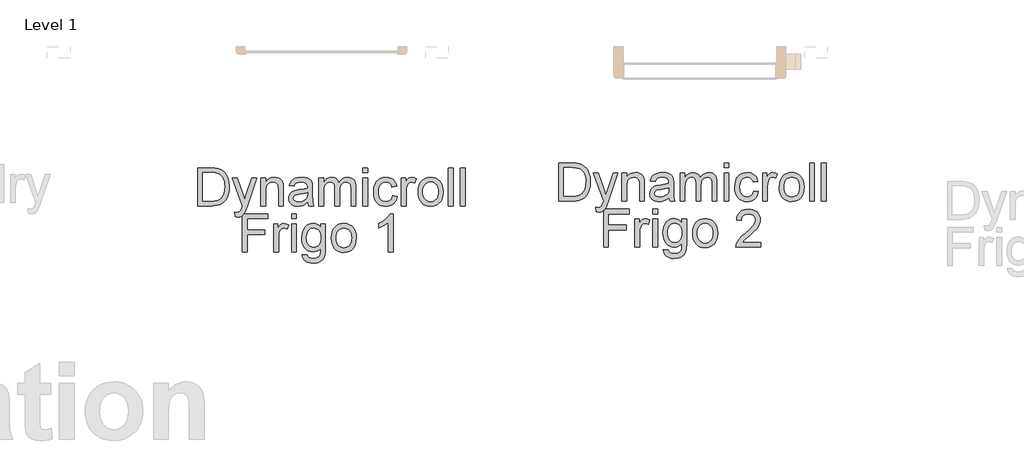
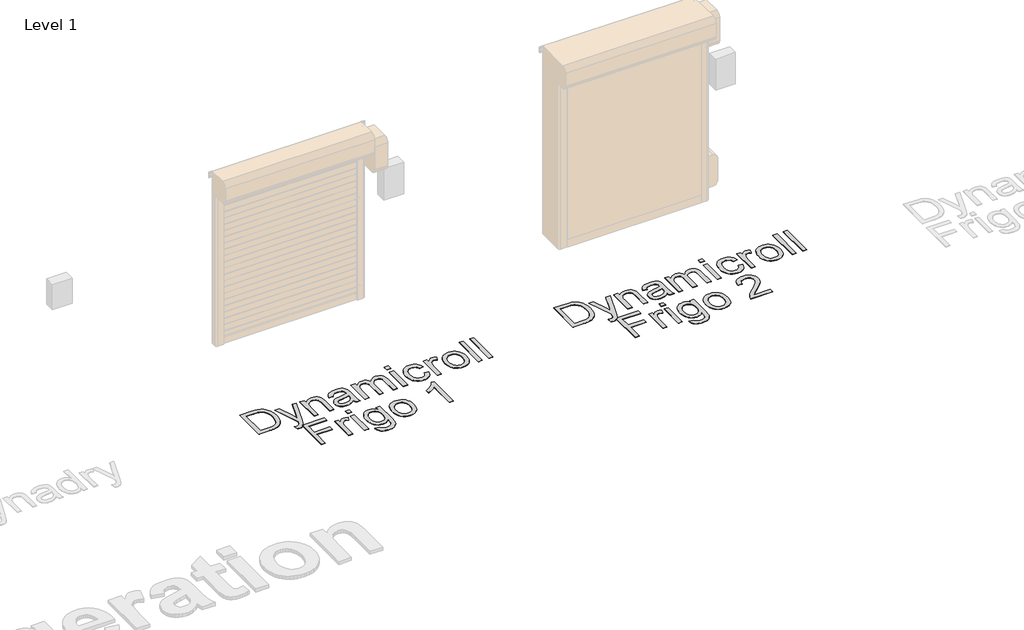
# One storey, part 4 of 18: 2 proxies.
"""IFC4 building model written with IfcOpenShell, lengths in millimetres."""

import ifcopenshell
import ifcopenshell.guid

model = None  # the IFC model being written
_history = None  # IfcOwnerHistory: only IFC2X3 demands one
_inside = {}  # id of a spatial element -> (the spatial element, [elements in it])
_under = {}  # id of a project, library or spatial element -> (it, [spatial elements below it])
_declared = {}  # id of a project -> (the project, [libraries it declares])
_typed = {}  # id of a type object -> (the type object, [elements of that type])
_made_of = {}  # id of a material, layer set ... -> (it, [elements and type objects made of it])


def new_model(schema):
    """Start an empty IFC model of exactly this schema.

    Asked for "IFC4X3", IfcOpenShell would pick the latest addendum, in which some entities
    have other attributes; the version numbers below select the first issue.
    IFC2X3 requires an IfcOwnerHistory on every rooted entity: one is made here for all.
    """
    global model, _history
    if schema == "IFC4X3":
        model = ifcopenshell.file(schema_version=(4, 3, 0, 0))
    else:
        model = ifcopenshell.file(schema=schema)
    _inside.clear()
    _under.clear()
    _declared.clear()
    _typed.clear()
    _made_of.clear()
    _history = None
    if model.schema == "IFC2X3":
        org = make("IfcOrganization", Name="unknown")
        user = make(
            "IfcPersonAndOrganization",
            ThePerson=make("IfcPerson", FamilyName="unknown"),
            TheOrganization=org,
        )
        app = make(
            "IfcApplication",
            ApplicationDeveloper=org,
            Version="unknown",
            ApplicationFullName="unknown",
            ApplicationIdentifier="unknown",
        )
        _history = make(
            "IfcOwnerHistory",
            OwningUser=user,
            OwningApplication=app,
            ChangeAction="ADDED",
            CreationDate=0,
        )
    return model


def make(cls, **values):
    """One entity of the class cls with the attributes given. An attribute that is None is left unset."""
    return model.create_entity(
        cls, **{name: value for name, value in values.items() if value is not None}
    )


def rooted(cls, **values):
    """An entity with a GlobalId (a new one), such as an element, a storey or a relation."""
    return make(cls, GlobalId=ifcopenshell.guid.new(), OwnerHistory=_history, **values)


def si_unit(unit_type, name, prefix=None):
    """IfcSIUnit, for example si_unit("LENGTHUNIT", "METRE", prefix="MILLI")."""
    return make("IfcSIUnit", UnitType=unit_type, Prefix=prefix, Name=name)


def assignment(units):
    """IfcUnitAssignment: the units of a project."""
    return None if units is None else make("IfcUnitAssignment", Units=units)


def point(xyz):
    """IfcCartesianPoint."""
    return None if xyz is None else make("IfcCartesianPoint", Coordinates=xyz)


def direction(xyz):
    """IfcDirection."""
    return None if xyz is None else make("IfcDirection", DirectionRatios=xyz)


def frame(location, z_axis=None, x_axis=None):
    """IfcAxis2Placement3D, a coordinate frame: its origin and axes. An axis left out is left unset."""
    return make(
        "IfcAxis2Placement3D",
        Location=point(location),
        Axis=direction(z_axis),
        RefDirection=direction(x_axis),
    )


def origin():
    """The frame at (0, 0, 0) with its axes left unset."""
    return frame((0.0, 0.0, 0.0))


def origin_with_axes():
    """The frame at (0, 0, 0) with the z axis (0, 0, 1) and the x axis (1, 0, 0) written out."""
    return frame((0.0, 0.0, 0.0), z_axis=(0.0, 0.0, 1.0), x_axis=(1.0, 0.0, 0.0))


def place(relative_to, where):
    """IfcLocalPlacement: puts the frame where relative to a parent placement (None: the world)."""
    return make(
        "IfcLocalPlacement", PlacementRelTo=relative_to, RelativePlacement=where
    )


def context(
    kind, dimensions, precision=None, world=None, true_north=None, identifier=None
):
    """IfcGeometricRepresentationContext, for example the 3D "Model" context."""
    return make(
        "IfcGeometricRepresentationContext",
        ContextIdentifier=identifier,
        ContextType=kind,
        CoordinateSpaceDimension=dimensions,
        Precision=precision,
        WorldCoordinateSystem=world,
        TrueNorth=true_north,
    )


def project(units=None, contexts=None):
    """IfcProject with its units and contexts."""
    return rooted(
        "IfcProject",
        Name="project",
        RepresentationContexts=contexts,
        UnitsInContext=assignment(units),
    )


def spatial(cls, under=None, at=None, **own):
    """A site, building, storey or space (cls), placed at a placement, below another one or the project."""
    s = rooted(cls, ObjectPlacement=at, **own)
    if under is not None:
        _under.setdefault(under.id(), (under, []))[1].append(s)
    return s


def polyline(points):
    """IfcPolyline through the points."""
    return make("IfcPolyline", Points=[point(p) for p in points])


def outline(outer, holes=None, kind="AREA"):
    """IfcArbitraryClosedProfileDef: a profile drawn as a closed curve; with holes, ...WithVoids."""
    if holes is None:
        return make("IfcArbitraryClosedProfileDef", ProfileType=kind, OuterCurve=outer)
    return make(
        "IfcArbitraryProfileDefWithVoids",
        ProfileType=kind,
        OuterCurve=outer,
        InnerCurves=holes,
    )


def extrude(swept, where, along, depth):
    """IfcExtrudedAreaSolid: the profile swept, set in the frame where, extruded along a direction by depth."""
    return make(
        "IfcExtrudedAreaSolid",
        SweptArea=swept,
        Position=where,
        ExtrudedDirection=direction(along),
        Depth=depth,
    )


def shape(context_of_items, identifier, shape_type, items):
    """IfcShapeRepresentation: the items that make up one representation, for example the "Body"."""
    return make(
        "IfcShapeRepresentation",
        ContextOfItems=context_of_items,
        RepresentationIdentifier=identifier,
        RepresentationType=shape_type,
        Items=items,
    )


def made_of(thing, what):
    """Note that an element or type object is made of a material, layer set ...; save() writes the relation."""
    if what is not None:
        _made_of.setdefault(what.id(), (what, []))[1].append(thing)
    return thing


def element(
    cls,
    number,
    at=None,
    inside=None,
    cuts=None,
    type_object=None,
    material=None,
    context=None,
    identifier="Body",
    shape_type=None,
    held_by="IfcProductDefinitionShape",
    body=None,
    shapes=None,
    **own,
):
    """One element of the class cls, such as IfcWall. Its Tag is "e" and its number.

    at: its placement. inside: the storey or other place that contains it. cuts: it is an
    opening in that element (IfcRelVoidsElement). A single representation is given by context,
    identifier, shape_type and body (its items); several are given by shapes. held_by: the class
    of the entity that holds the representations. save() writes the other relations.
    """
    e = rooted(cls, Tag="e%d" % number, ObjectPlacement=at, **own)
    if body is not None:
        shapes = [shape(context, identifier, shape_type, body)]
    if shapes is not None:
        e.Representation = make(held_by, Representations=shapes)
    if inside is not None:
        _inside.setdefault(inside.id(), (inside, []))[1].append(e)
    if cuts is not None:
        rooted(
            "IfcRelVoidsElement", RelatingBuildingElement=cuts, RelatedOpeningElement=e
        )
    if type_object is not None:
        _typed.setdefault(type_object.id(), (type_object, []))[1].append(e)
    return made_of(e, material)


def aggregate(whole, parts):
    """IfcRelAggregates: a whole, such as a stair, and the parts it consists of."""
    return rooted("IfcRelAggregates", RelatingObject=whole, RelatedObjects=parts)


def save(model, path):
    """Write the relations noted so far, then the file.

    IfcRelAggregates (storeys below a building ...), IfcRelContainedInSpatialStructure (elements
    in a storey), IfcRelDefinesByType, IfcRelAssociatesMaterial and IfcRelDeclares: one each for
    every whole, place, type object, material and project.
    """
    for whole, parts in _under.values():
        aggregate(whole, parts)
    for where, things in _inside.values():
        rooted(
            "IfcRelContainedInSpatialStructure",
            RelatedElements=things,
            RelatingStructure=where,
        )
    for kind, things in _typed.values():
        rooted("IfcRelDefinesByType", RelatedObjects=things, RelatingType=kind)
    for what, things in _made_of.values():
        rooted("IfcRelAssociatesMaterial", RelatedObjects=things, RelatingMaterial=what)
    for by, libraries in _declared.values():
        rooted("IfcRelDeclares", RelatingContext=by, RelatedDefinitions=libraries)
    model.write(path)


model = new_model("IFC4")

# Units and contexts
model_context = context("Model", 3, world=origin())
ifc_project = project(units=[si_unit("LENGTHUNIT", "METRE", prefix="MILLI")], contexts=[model_context])

# Site, building, storey
site = spatial("IfcSite", under=ifc_project)
building = spatial("IfcBuilding", under=site)
storey = spatial("IfcBuildingStorey", under=building, Name="Level 1", Elevation=0.0)

# Proxies
placement = place(None, origin())
element("IfcBuildingElementProxy", 1, Name="500mm", ObjectType="500mm", at=placement, inside=storey, context=model_context, shape_type="SweptSolid", body=[
    extrude(outline(polyline([(14861.4528433, 7547.2366873), (14861.4528433, 8049.5182381), (15034.725263, 8049.5182381), (15086.5046538, 8047.7094849), (15124.3658425, 8042.2832255), (15164.4036663, 8028.3343665), (15198.1874962, 8006.3534173), (15216.803858, 7988.3885132), (15232.9216879, 7968.0936898), (15246.5409859, 7945.4689471), (15257.6617521, 7920.5142851), (15272.4690024, 7864.5349081), (15277.4047525, 7801.075264), (15274.0631577, 7747.1652233), (15264.0383733, 7699.7237743), (15248.7712705, 7659.3333969), (15229.7027204, 7626.5765709), (15207.752428, 7600.7175324), (15183.8400984, 7581.0205172), (15156.3869045, 7566.4125363), (15123.8140195, 7555.8206005), (15086.0601297, 7549.3826656), (15043.0639215, 7547.2366873), (14861.4528433, 7547.2366873)]), holes=[polyline([(14924.2380371, 7610.0218811), (15035.3383996, 7610.0218811), (15081.2929922, 7612.2904868), (15116.1498112, 7619.0963037), (15142.4533739, 7630.0407931), (15162.7481973, 7644.725416), (15184.5605339, 7671.9026984), (15200.9466111, 7707.0814142), (15211.2013218, 7750.4148476), (15214.6195586, 7802.0562826), (15212.9449291, 7838.507257), (15207.9210406, 7870.4823337), (15199.5478931, 7897.9815129), (15187.8254866, 7921.0047944), (15173.704183, 7940.0733445), (15158.1343439, 7955.7083293), (15141.1159696, 7967.9097488), (15122.6490598, 7976.677603), (15086.5353106, 7984.2191839), (15033.621617, 7986.7330442), (14924.2380371, 7986.7330442), (14924.2380371, 7610.0218811)])]), origin_with_axes(), (0.0, 0.0, 1.0), 5.0),
    extrude(outline(polyline([(15355.8862448, 7405.9700012), (15348.0380955, 7466.4252757), (15379.9212018, 7460.9070458), (15396.6904894, 7462.6391568), (15409.7196434, 7467.83549), (15419.8670551, 7476.1281633), (15427.9911158, 7487.1492948), (15445.1589423, 7533.3797988), (15450.0640355, 7548.585588), (15316.6454986, 7916.0997011), (15382.8642578, 7916.0997011), (15453.6202282, 7711.3120572), (15478.2683218, 7629.3969996), (15502.9164155, 7701.7471253), (15575.6344232, 7916.0997011), (15641.362673, 7916.0997011), (15512.9718567, 7538.4075194), (15479.6172225, 7456.4924618), (15462.5413665, 7430.3421833), (15443.196905, 7412.2239951), (15420.7254464, 7401.6473877), (15394.2685996, 7398.1218519), (15376.0890977, 7400.0838892), (15355.8862448, 7405.9700012)])), origin_with_axes(), (0.0, 0.0, 1.0), 5.0),
    extrude(outline(polyline([(15693.3566617, 7547.2366873), (15693.3566617, 7916.0997011), (15756.1418555, 7916.0997011), (15756.1418555, 7864.5962218), (15777.9541922, 7890.5625593), (15804.1504559, 7909.1099432), (15834.7306467, 7920.2383736), (15869.6947647, 7923.9478504), (15900.6428375, 7920.9588092), (15928.9850796, 7911.9916855), (15952.6214978, 7898.1654539), (15969.4520991, 7880.5990886), (15980.8717693, 7859.338575), (15988.2753945, 7834.4298982), (15991.5863324, 7773.729369), (15991.5863324, 7547.2366873), (15928.8011386, 7547.2366873), (15928.8011386, 7765.2680831), (15926.9923855, 7797.7336692), (15921.566126, 7820.8182644), (15911.5566701, 7837.3576258), (15895.9983274, 7850.1875103), (15876.0560575, 7858.41887), (15852.8948203, 7861.1626565), (15833.8301023, 7859.6221507), (15816.1219492, 7855.0006331), (15799.7703609, 7847.2981038), (15784.7753375, 7836.5145628), (15772.2481891, 7821.4237368), (15763.300226, 7800.7993525), (15757.9314481, 7774.6414098), (15756.1418555, 7742.9499087), (15756.1418555, 7547.2366873), (15693.3566617, 7547.2366873)])), origin_with_axes(), (0.0, 0.0, 1.0), 5.0),
    extrude(outline(polyline([(16313.3604509, 7594.3255827), (16283.3627399, 7568.6044999), (16252.4759807, 7551.7738986), (16219.9950662, 7542.4848782), (16185.2148892, 7539.3885381), (16157.2596897, 7541.2509407), (16132.7457197, 7546.8381485), (16111.6729791, 7556.1501615), (16094.0414681, 7569.1869797), (16080.1194338, 7585.1208686), (16070.1751237, 7603.1240937), (16064.2085375, 7623.1966551), (16062.2196755, 7645.3385527), (16065.2240451, 7671.3662038), (16074.237154, 7695.002622), (16088.1400278, 7715.2361318), (16105.8136919, 7731.0550576), (16126.5836963, 7743.0112224), (16149.7755904, 7751.6564493), (16204.0994983, 7761.0987538), (16268.2949065, 7771.0315677), (16312.9925689, 7782.6811642), (16313.3604509, 7796.66068), (16309.0378374, 7824.6810253), (16296.0699971, 7843.0138114), (16282.9948579, 7850.9539312), (16267.0686332, 7856.6254452), (16226.6629274, 7861.1626565), (16189.2615912, 7858.1429585), (16163.1419695, 7849.0838643), (16145.3303496, 7832.3299052), (16132.8530186, 7806.2256119), (16070.0678247, 7814.0737611), (16080.9663289, 7848.409414), (16097.2297787, 7875.387427), (16120.3756876, 7896.0194756), (16151.9215687, 7911.3172352), (16190.5031929, 7920.7901966), (16234.7563313, 7923.9478504), (16277.2007164, 7921.1580786), (16310.8465906, 7912.7887632), (16336.2151198, 7900.2041333), (16353.8274704, 7884.7684179), (16365.5077237, 7865.6845394), (16373.0799614, 7842.1554201), (16376.1456447, 7787.2183755), (16376.1456447, 7709.1047652), (16379.3339554, 7600.0277536), (16384.0551076, 7573.065069), (16391.8419432, 7547.2366873), (16329.0567493, 7547.2366873), (16319.0013081, 7569.0643524), (16313.3604509, 7594.3255827)]), holes=[polyline([(16313.3604509, 7719.8959704), (16271.1766488, 7709.4419903), (16212.0702749, 7700.6434793), (16158.0529353, 7690.4654108), (16143.9967774, 7683.5063097), (16133.5887826, 7673.910721), (16127.1508477, 7662.4144086), (16125.0048694, 7649.7531366), (16129.6800364, 7631.0831254), (16143.7055374, 7615.7853657), (16166.7748042, 7605.5766404), (16198.5812684, 7602.1737319), (16232.3037846, 7605.929194), (16262.1022262, 7617.1955801), (16286.2598106, 7633.7962551), (16303.059755, 7653.5545839), (16310.5093654, 7673.910721), (16312.9925689, 7702.1150073), (16313.3604509, 7719.8959704)])]), origin_with_axes(), (0.0, 0.0, 1.0), 5.0),
    extrude(outline(polyline([(16462.4752863, 7547.2366873), (16462.4752863, 7916.0997011), (16525.2604801, 7916.0997011), (16525.2604801, 7855.3991719), (16544.1450892, 7883.2815615), (16568.4253009, 7905.1245549), (16597.2733807, 7919.2420265), (16629.8615941, 7923.9478504), (16664.7797268, 7919.150056), (16692.7694152, 7904.756673), (16713.6773753, 7881.718063), (16727.3503228, 7850.984588), (16750.2356486, 7882.9060153), (16776.3399418, 7905.7070348), (16805.6632025, 7919.3876465), (16838.2054307, 7923.9478504), (16863.3402016, 7922.0509588), (16885.401625, 7916.3602842), (16904.3897009, 7906.8758265), (16920.3044293, 7893.5975858), (16932.8852271, 7876.3722778), (16941.8715112, 7855.0466184), (16947.2632817, 7829.6206075), (16949.0605386, 7800.0942453), (16949.0605386, 7547.2366873), (16886.2753447, 7547.2366873), (16886.2753447, 7773.1162323), (16884.8191451, 7804.4321872), (16880.4505465, 7825.5394167), (16872.2651721, 7839.9941134), (16859.3586454, 7851.35247), (16842.7579704, 7858.7101099), (16823.4901509, 7861.1626565), (16805.6976915, 7859.5914938), (16789.4763947, 7854.8780058), (16774.8262607, 7847.0221923), (16761.7472893, 7836.0240535), (16750.9905731, 7821.5616926), (16743.3072043, 7803.3132128), (16738.6971831, 7781.2786141), (16737.1605093, 7755.4578966), (16737.1605093, 7547.2366873), (16674.3753155, 7547.2366873), (16674.3753155, 7780.1059903), (16670.7424808, 7815.6066028), (16659.8439767, 7840.9291468), (16651.4171797, 7849.7813073), (16640.6681277, 7856.1042791), (16612.2032583, 7861.1626565), (16588.0150171, 7857.7904049), (16565.7274996, 7847.67365), (16547.3333998, 7831.0576466), (16534.825412, 7808.1876492), (16527.6517131, 7776.4578271), (16525.2604801, 7733.2623495), (16525.2604801, 7547.2366873), (16462.4752863, 7547.2366873)])), origin_with_axes(), (0.0, 0.0, 1.0), 5.0),
    extrude(outline(polyline([(17043.2383293, 7986.7330442), (17043.2383293, 8049.5182381), (17106.0235232, 8049.5182381), (17106.0235232, 7986.7330442), (17043.2383293, 7986.7330442)])), origin_with_axes(), (0.0, 0.0, 1.0), 5.0),
    extrude(outline(polyline([(17043.2383293, 7547.2366873), (17043.2383293, 7916.0997011), (17106.0235232, 7916.0997011), (17106.0235232, 7547.2366873), (17043.2383293, 7547.2366873)])), origin_with_axes(), (0.0, 0.0, 1.0), 5.0),
    extrude(outline(polyline([(17435.6457908, 7680.6552242), (17498.4309847, 7672.807075), (17491.6021751, 7643.1810781), (17480.9259331, 7616.9656538), (17466.4022585, 7594.1608022), (17448.0311513, 7574.7665233), (17426.5866967, 7559.2886548), (17402.8429796, 7548.2330344), (17376.8, 7541.5996621), (17348.457758, 7539.3885381), (17313.2445533, 7542.4733819), (17281.6718474, 7551.7279133), (17253.7396405, 7567.1521324), (17229.4479325, 7588.7460391), (17209.7854063, 7616.1034304), (17195.7407447, 7648.8181032), (17187.3139478, 7686.8900576), (17184.5050155, 7730.3192936), (17189.3028098, 7786.1913716), (17203.6961929, 7834.6138392), (17214.5487117, 7855.5639524), (17227.9150909, 7873.7166296), (17243.7953304, 7889.0718708), (17262.1894301, 7901.629676), (17303.1929442, 7918.3683068), (17347.5993667, 7923.9478504), (17375.4549315, 7922.0317983), (17400.651016, 7916.2836421), (17423.1876204, 7906.7033818), (17443.0647444, 7893.2910174), (17459.945163, 7876.3531172), (17473.4916511, 7856.1962496), (17483.7042086, 7832.8204145), (17490.5828355, 7806.2256119), (17427.7976416, 7798.3774627), (17416.4086282, 7825.7693429), (17398.6736503, 7845.4050444), (17375.5737267, 7857.2232535), (17348.089876, 7861.1626565), (17326.7565524, 7859.2236118), (17307.5155576, 7853.4064778), (17290.3668917, 7843.7112544), (17275.3105546, 7830.1379416), (17263.0516535, 7812.3723069), (17254.2952956, 7790.1001178), (17249.0414809, 7763.3213742), (17247.2902093, 7732.0360762), (17249.0031598, 7700.2794294), (17254.1420115, 7673.1902854), (17262.7067642, 7650.7686442), (17274.6974179, 7633.0145058), (17289.4548509, 7619.5216673), (17306.3199411, 7609.8839254), (17325.2926886, 7604.1012803), (17346.3730933, 7602.1737319), (17378.8846647, 7606.9868547), (17405.5407809, 7621.426223), (17416.3204898, 7632.3477197), (17424.9312277, 7645.8597188), (17435.6457908, 7680.6552242)])), origin_with_axes(), (0.0, 0.0, 1.0), 5.0),
    extrude(outline(polyline([(17553.3680293, 7547.2366873), (17553.3680293, 7916.0997011), (17608.3050739, 7916.0997011), (17608.3050739, 7861.5305385), (17628.5998973, 7893.1683901), (17647.3005654, 7911.8077445), (17666.0625472, 7920.9128239), (17686.5413115, 7923.9478504), (17717.8112811, 7919.1040708), (17749.5717601, 7904.572732), (17728.6024863, 7848.2867867), (17706.5295666, 7857.9436891), (17684.4566469, 7861.1626565), (17665.7099936, 7858.0663164), (17648.9560344, 7848.777296), (17635.4210426, 7834.0007025), (17626.3312917, 7814.4416431), (17618.6977403, 7779.3702263), (17616.1532231, 7741.1104988), (17616.1532231, 7547.2366873), (17553.3680293, 7547.2366873)])), origin_with_axes(), (0.0, 0.0, 1.0), 5.0),
    extrude(outline(polyline([(17773.1162077, 7731.6681942), (17776.511452, 7779.4392041), (17786.6971847, 7820.6036666), (17803.673406, 7855.1615815), (17827.4401157, 7883.1129489), (17851.3677738, 7900.9782183), (17877.7786354, 7913.739125), (17906.6727004, 7921.395669), (17938.0499689, 7923.9478504), (17972.688358, 7920.8400139), (18004.008145, 7911.5165046), (18032.0093297, 7895.9773224), (18056.6919124, 7874.2224674), (18076.8372837, 7846.9877034), (18091.2268347, 7815.0087945), (18099.8605652, 7778.2857408), (18102.7384754, 7736.8185422), (18097.6494412, 7673.3895548), (18091.2881483, 7647.3542395), (18082.3823384, 7625.105043), (18071.0431423, 7605.8870408), (18057.3816911, 7588.9453085), (18041.3979848, 7574.2798461), (18023.0920235, 7561.8906534), (17982.3644209, 7545.0140669), (17938.0499689, 7539.3885381), (17902.9057421, 7542.4848782), (17871.2947152, 7551.7738986), (17843.2168883, 7567.2555992), (17818.6722615, 7588.9299801), (17798.741488, 7616.4291592), (17784.5052212, 7649.3852546), (17775.9634611, 7687.7982663), (17773.1162077, 7731.6681942)]), holes=[polyline([(17835.9014016, 7731.7908216), (17837.7178189, 7701.3370901), (17843.167071, 7674.9683817), (17852.2491578, 7652.6846963), (17864.9640792, 7634.4860338), (17880.4304514, 7620.3494017), (17897.7668904, 7610.2518074), (17916.9733963, 7604.1932508), (17938.0499689, 7602.1737319), (17959.0192426, 7604.2047471), (17978.1491064, 7610.2977926), (17995.4395602, 7620.4528686), (18010.890604, 7634.6699748), (18023.6055254, 7653.0487462), (18032.6876122, 7675.6888173), (18038.1368642, 7702.5901882), (18039.9532816, 7733.7528589), (18038.1253679, 7763.2409), (18032.6416269, 7788.9198297), (18023.5020586, 7810.7896479), (18010.706663, 7828.8503546), (17995.1981376, 7842.9869867), (17977.9191801, 7853.084581), (17958.8697906, 7859.1431377), (17938.0499689, 7861.1626565), (17916.9733963, 7859.1508019), (17897.7668904, 7853.1152379), (17880.4304514, 7843.0559646), (17864.9640792, 7828.9729819), (17852.2491578, 7810.827969), (17843.167071, 7788.5826046), (17837.7178189, 7762.2368888), (17835.9014016, 7731.7908216)])]), origin_with_axes(), (0.0, 0.0, 1.0), 5.0),
    extrude(outline(polyline([(18173.3718185, 7547.2366873), (18173.3718185, 8049.5182381), (18236.1570123, 8049.5182381), (18236.1570123, 7547.2366873), (18173.3718185, 7547.2366873)])), origin_with_axes(), (0.0, 0.0, 1.0), 5.0),
    extrude(outline(polyline([(18330.3348031, 7547.2366873), (18330.3348031, 8049.5182381), (18393.119997, 8049.5182381), (18393.119997, 7547.2366873), (18330.3348031, 7547.2366873)])), origin_with_axes(), (0.0, 0.0, 1.0), 5.0),
    extrude(outline(polyline([(15450.0640355, 6937.3625981), (15450.0640355, 7439.6441488), (15787.5344524, 7439.6441488), (15787.5344524, 7376.858955), (15512.8492294, 7376.858955), (15512.8492294, 7227.7441196), (15748.2937063, 7227.7441196), (15748.2937063, 7164.9589258), (15512.8492294, 7164.9589258), (15512.8492294, 6937.3625981), (15450.0640355, 6937.3625981)])), origin_with_axes(), (0.0, 0.0, 1.0), 5.0),
    extrude(outline(polyline([(15866.0159448, 6937.3625981), (15866.0159448, 7306.2256119), (15920.9529894, 7306.2256119), (15920.9529894, 7251.6564493), (15941.2478128, 7283.2943009), (15959.9484809, 7301.9336553), (15978.7104626, 7311.0387347), (15999.189227, 7314.0737611), (16030.4591966, 7309.2299815), (16062.2196755, 7294.6986427), (16041.2504018, 7238.4126975), (16019.1774821, 7248.0695998), (15997.1045624, 7251.2885673), (15978.357909, 7248.1922272), (15961.6039498, 7238.9032068), (15948.0689581, 7224.1266133), (15938.9792071, 7204.5675539), (15931.3456557, 7169.496137), (15928.8011386, 7131.2364095), (15928.8011386, 6937.3625981), (15866.0159448, 6937.3625981)])), origin_with_axes(), (0.0, 0.0, 1.0), 5.0),
    extrude(outline(polyline([(16101.4604217, 7376.858955), (16101.4604217, 7439.6441488), (16164.2456155, 7439.6441488), (16164.2456155, 7376.858955), (16101.4604217, 7376.858955)])), origin_with_axes(), (0.0, 0.0, 1.0), 5.0),
    extrude(outline(polyline([(16101.4604217, 6937.3625981), (16101.4604217, 7306.2256119), (16164.2456155, 7306.2256119), (16164.2456155, 6937.3625981), (16101.4604217, 6937.3625981)])), origin_with_axes(), (0.0, 0.0, 1.0), 5.0),
    extrude(outline(polyline([(16242.7271078, 6905.9700012), (16305.5123017, 6898.1218519), (16312.4407459, 6878.5014789), (16325.8684387, 6865.0124724), (16352.2639719, 6854.5278355), (16386.8142226, 6851.0329565), (16423.6637358, 6854.987688), (16451.0709444, 6866.8518823), (16470.0781808, 6885.8591188), (16481.7277773, 6911.2429764), (16485.1306858, 6938.2516462), (16486.019734, 6984.4514935), (16465.1271023, 6963.8501017), (16441.8125809, 6949.1348219), (16416.0761696, 6940.305654), (16387.9178686, 6937.3625981), (16353.4940773, 6940.7884992), (16323.1859658, 6951.0662024), (16296.9935342, 6968.1957078), (16274.9167824, 6992.1770154), (16257.4002345, 7020.9484531), (16244.8884145, 7052.4483489), (16237.3813226, 7086.6767029), (16234.8789586, 7123.633515), (16239.3701846, 7174.3245882), (16252.8438627, 7220.9383027), (16274.8248119, 7260.4396319), (16288.8273203, 7276.3850172), (16304.8378513, 7289.7935495), (16322.5996539, 7300.4161421), (16341.8559771, 7308.0037082), (16362.6068209, 7312.5562479), (16384.8521853, 7314.0737611), (16414.213767, 7310.6401959), (16440.862219, 7300.3395), (16464.7975414, 7283.1716735), (16486.019734, 7259.1367165), (16486.019734, 7306.2256119), (16548.8049278, 7306.2256119), (16548.8049278, 6987.7624314), (16544.5129712, 6914.2320176), (16539.1480254, 6886.8822906), (16531.6371014, 6865.80955), (16509.4568827, 6833.6965175), (16477.2518797, 6809.0944091), (16457.5663609, 6799.9740013), (16435.7271995, 6793.4594243), (16385.5879493, 6788.2477627), (16354.8276495, 6790.0833406), (16327.1713541, 6795.5900742), (16302.619063, 6804.7679635), (16281.1707763, 6817.6170086), (16263.8458336, 6834.1525379), (16251.6635746, 6854.3898798), (16244.6239994, 6878.3290342), (16242.7271078, 6905.9700012)]), holes=[polyline([(16297.6641524, 7127.9254716), (16299.3387819, 7096.8815961), (16304.3626704, 7070.3366109), (16312.7358179, 7048.2905159), (16324.4582244, 7030.7433112), (16338.7098196, 7017.3577715), (16354.6705333, 7007.7966717), (16372.3403653, 7002.0600119), (16391.7193159, 7000.1477919), (16410.9066612, 7002.0485156), (16428.492187, 7007.7506865), (16444.4758932, 7017.2543047), (16458.85778, 7030.5593702), (16470.7411348, 7047.9341303), (16479.2292455, 7069.6468322), (16484.3221118, 7095.697476), (16486.019734, 7126.0860616), (16484.2722945, 7155.2062208), (16479.029976, 7180.5172685), (16470.2927787, 7202.0192047), (16458.0607023, 7219.7120294), (16443.3684151, 7233.5267647), (16427.2505852, 7243.3944328), (16409.7072126, 7249.3150337), (16390.7382972, 7251.2885673), (16372.0874465, 7249.3456905), (16354.8851311, 7243.5170601), (16339.1313511, 7233.8026762), (16324.8261064, 7220.2025387), (16312.9427515, 7202.7779613), (16304.4546409, 7181.5902576), (16299.3617745, 7156.6394277), (16297.6641524, 7127.9254716)])]), origin_with_axes(), (0.0, 0.0, 1.0), 5.0),
    extrude(outline(polyline([(16627.2864201, 7121.794105), (16630.6816644, 7169.5651149), (16640.8673971, 7210.7295773), (16657.8436183, 7245.2874923), (16681.6103281, 7273.2388597), (16705.5379862, 7291.1041291), (16731.9488477, 7303.8650358), (16760.8429128, 7311.5215798), (16792.2201813, 7314.0737611), (16826.8585704, 7310.9659247), (16858.1783573, 7301.6424154), (16886.1795421, 7286.1032332), (16910.8621247, 7264.3483781), (16931.0074961, 7237.1136142), (16945.397047, 7205.1347053), (16954.0307776, 7168.4116516), (16956.9086878, 7126.9444529), (16951.8196535, 7063.5154656), (16945.4583607, 7037.4801502), (16936.5525507, 7015.2309537), (16925.2133546, 6996.0129516), (16911.5519035, 6979.0712193), (16895.5681972, 6964.4057568), (16877.2622358, 6952.0165642), (16836.5346333, 6935.1399777), (16792.2201813, 6929.5144488), (16757.0759544, 6932.610789), (16725.4649276, 6941.8998094), (16697.3871007, 6957.38151), (16672.8424738, 6979.0558909), (16652.9117003, 7006.55507), (16638.6754335, 7039.5111654), (16630.1336735, 7077.9241771), (16627.2864201, 7121.794105)]), holes=[polyline([(16690.0716139, 7121.9167323), (16691.8880313, 7091.4630009), (16697.3372834, 7065.0942925), (16706.4193701, 7042.8106071), (16719.1342916, 7024.6119446), (16734.6006638, 7010.4753125), (16751.9371028, 7000.3777182), (16771.1436086, 6994.3191616), (16792.2201813, 6992.2996427), (16813.189455, 6994.3306579), (16832.3193187, 7000.4237034), (16849.6097725, 7010.5787793), (16865.0608163, 7024.7958856), (16877.7757378, 7043.1746569), (16886.8578245, 7065.8147281), (16892.3070766, 7092.716099), (16894.1234939, 7123.8787696), (16892.2955803, 7153.3668108), (16886.8118393, 7179.0457405), (16877.672271, 7200.9155587), (16864.8768753, 7218.9762654), (16849.36835, 7233.1128975), (16832.0893925, 7243.2104918), (16813.0400029, 7249.2690484), (16792.2201813, 7251.2885673), (16771.1436086, 7249.2767126), (16751.9371028, 7243.2411487), (16734.6006638, 7233.1818753), (16719.1342916, 7219.0988927), (16706.4193701, 7200.9538797), (16697.3372834, 7178.7085153), (16691.8880313, 7152.3627995), (16690.0716139, 7121.9167323)])]), origin_with_axes(), (0.0, 0.0, 1.0), 5.0),
    extrude(outline(polyline([(17443.4939401, 6937.3625981), (17380.7087462, 6937.3625981), (17380.7087462, 7328.7890409), (17354.4971541, 7307.589841), (17321.2344903, 7286.4212978), (17255.1383585, 7254.7221326), (17255.1383585, 7314.0737611), (17304.4498743, 7340.89849), (17347.170171, 7372.812253), (17380.846702, 7406.7493671), (17403.0269206, 7439.6441488), (17443.4939401, 7439.6441488), (17443.4939401, 6937.3625981)])), origin_with_axes(), (0.0, 0.0, 1.0), 5.0),
])
element("IfcBuildingElementProxy", 2, Name="500mm", ObjectType="500mm", at=placement, inside=storey, context=model_context, shape_type="SweptSolid", body=[
    extrude(outline(polyline([(19635.3862268, 7610.4555859), (19635.3862268, 8112.7371367), (19808.6586466, 8112.7371367), (19860.4380374, 8110.9283835), (19898.299226, 8105.5021241), (19938.3370499, 8091.5532651), (19972.1208797, 8069.5723159), (19990.7372415, 8051.6074118), (20006.8550715, 8031.3125884), (20020.4743695, 8008.6878457), (20031.5951356, 7983.7331837), (20046.4023859, 7927.7538068), (20051.338136, 7864.2941626), (20047.9965413, 7810.3841219), (20037.9717569, 7762.9426729), (20022.7046541, 7722.5522955), (20003.636104, 7689.7954695), (19981.6858116, 7663.936431), (19957.7734819, 7644.2394158), (19930.320288, 7629.6314349), (19897.7474031, 7619.0394991), (19859.9935133, 7612.6015642), (19816.9973051, 7610.4555859), (19635.3862268, 7610.4555859)]), holes=[polyline([(19698.1714207, 7673.2407798), (19809.2717832, 7673.2407798), (19855.2263758, 7675.5093854), (19890.0831948, 7682.3152023), (19916.3867575, 7693.2596917), (19936.6815809, 7707.9443146), (19958.4939175, 7735.121597), (19974.8799947, 7770.3003128), (19985.1347053, 7813.6337462), (19988.5529422, 7865.2751812), (19986.8783127, 7901.7261556), (19981.8544242, 7933.7012323), (19973.4812767, 7961.2004115), (19961.7588702, 7984.223693), (19947.6375665, 8003.2922431), (19932.0677275, 8018.9272279), (19915.0493531, 8031.1286474), (19896.5824434, 8039.8965016), (19860.4686942, 8047.4380825), (19807.5550006, 8049.9519428), (19698.1714207, 8049.9519428), (19698.1714207, 7673.2407798)])]), origin_with_axes(), (0.0, 0.0, 1.0), 5.0),
    extrude(outline(polyline([(20129.8196283, 7469.1888998), (20121.9714791, 7529.6441743), (20153.8545854, 7524.1259444), (20170.623873, 7525.8580554), (20183.653027, 7531.0543886), (20193.8004387, 7539.3470619), (20201.9244994, 7550.3681934), (20219.0923258, 7596.5986974), (20223.9974191, 7611.8044866), (20090.5788822, 7979.3185997), (20156.7976413, 7979.3185997), (20227.5536117, 7774.5309558), (20252.2017054, 7692.6158982), (20276.8497991, 7764.9660239), (20349.5678068, 7979.3185997), (20415.2960566, 7979.3185997), (20286.9052403, 7601.626418), (20253.5506061, 7519.7113604), (20236.4747501, 7493.5610819), (20217.1302885, 7475.4428937), (20194.65883, 7464.8662863), (20168.2019832, 7461.3407505), (20150.0224812, 7463.3027878), (20129.8196283, 7469.1888998)])), origin_with_axes(), (0.0, 0.0, 1.0), 5.0),
    extrude(outline(polyline([(20467.2900453, 7610.4555859), (20467.2900453, 7979.3185997), (20530.0752391, 7979.3185997), (20530.0752391, 7927.8151204), (20551.8875757, 7953.7814579), (20578.0838395, 7972.3288418), (20608.6640303, 7983.4572722), (20643.6281483, 7987.166749), (20674.5762211, 7984.1777078), (20702.9184632, 7975.2105841), (20726.5548814, 7961.3843525), (20743.3854826, 7943.8179872), (20754.8051529, 7922.5574736), (20762.2087781, 7897.6487968), (20765.519716, 7836.9482676), (20765.519716, 7610.4555859), (20702.7345222, 7610.4555859), (20702.7345222, 7828.4869817), (20700.925769, 7860.9525678), (20695.4995096, 7884.037163), (20685.4900536, 7900.5765244), (20669.9317109, 7913.4064089), (20649.9894411, 7921.6377686), (20626.8282038, 7924.3815551), (20607.7634859, 7922.8410493), (20590.0553327, 7918.2195317), (20573.7037445, 7910.5170024), (20558.7087211, 7899.7334615), (20546.1815727, 7884.6426354), (20537.2336096, 7864.0182511), (20531.8648317, 7837.8603084), (20530.0752391, 7806.1688073), (20530.0752391, 7610.4555859), (20467.2900453, 7610.4555859)])), origin_with_axes(), (0.0, 0.0, 1.0), 5.0),
    extrude(outline(polyline([(21087.2938345, 7657.5444813), (21057.2961234, 7631.8233985), (21026.4093643, 7614.9927972), (20993.9284498, 7605.7037768), (20959.1482728, 7602.6074367), (20931.1930733, 7604.4698393), (20906.6791032, 7610.0570471), (20885.6063627, 7619.3690601), (20867.9748517, 7632.4058783), (20854.0528174, 7648.3397672), (20844.1085072, 7666.3429923), (20838.1419211, 7686.4155537), (20836.1530591, 7708.5574513), (20839.1574287, 7734.5851025), (20848.1705376, 7758.2215206), (20862.0734113, 7778.4550304), (20879.7470755, 7794.2739562), (20900.5170798, 7806.230121), (20923.7089739, 7814.8753479), (20978.0328819, 7824.3176524), (21042.2282901, 7834.2504663), (21086.9259525, 7845.9000628), (21087.2938345, 7859.8795786), (21082.971221, 7887.8999239), (21070.0033807, 7906.23271), (21056.9282414, 7914.1728298), (21041.0020167, 7919.8443439), (21000.5963109, 7924.3815551), (20963.1949748, 7921.3618571), (20937.0753531, 7912.302763), (20919.2637332, 7895.5488038), (20906.7864022, 7869.4445105), (20844.0012083, 7877.2926597), (20854.8997124, 7911.6283126), (20871.1631623, 7938.6063256), (20894.3090712, 7959.2383742), (20925.8549522, 7974.5361338), (20964.4365765, 7984.0090952), (21008.6897148, 7987.166749), (21051.1341, 7984.3769772), (21084.7799742, 7976.0076618), (21110.1485034, 7963.4230319), (21127.7608539, 7947.9873165), (21139.4411073, 7928.903438), (21147.013345, 7905.3743187), (21150.0790283, 7850.4372741), (21150.0790283, 7772.3236638), (21153.2673389, 7663.2466522), (21157.9884912, 7636.2839677), (21165.7753268, 7610.4555859), (21102.9901329, 7610.4555859), (21092.9346917, 7632.283251), (21087.2938345, 7657.5444813)]), holes=[polyline([(21087.2938345, 7783.114869), (21045.1100323, 7772.660889), (20986.0036585, 7763.8623779), (20931.9863188, 7753.6843094), (20917.9301609, 7746.7252083), (20907.5221662, 7737.1296196), (20901.0842312, 7725.6333072), (20898.9382529, 7712.9720352), (20903.61342, 7694.302024), (20917.638921, 7679.0042643), (20940.7081878, 7668.795539), (20972.514652, 7665.3926305), (21006.2371682, 7669.1480926), (21036.0356098, 7680.4144787), (21060.1931941, 7697.0151537), (21076.9931386, 7716.7734825), (21084.442749, 7737.1296196), (21086.9259525, 7765.3339059), (21087.2938345, 7783.114869)])]), origin_with_axes(), (0.0, 0.0, 1.0), 5.0),
    extrude(outline(polyline([(21236.4086698, 7610.4555859), (21236.4086698, 7979.3185997), (21299.1938637, 7979.3185997), (21299.1938637, 7918.6180705), (21318.0784728, 7946.5004601), (21342.3586844, 7968.3434536), (21371.2067642, 7982.4609251), (21403.7949776, 7987.166749), (21438.7131104, 7982.3689546), (21466.7027988, 7967.9755716), (21487.6107589, 7944.9369616), (21501.2837064, 7914.2034866), (21524.1690321, 7946.1249139), (21550.2733254, 7968.9259334), (21579.5965861, 7982.6065451), (21612.1388142, 7987.166749), (21637.2735851, 7985.2698574), (21659.3350085, 7979.5791828), (21678.3230844, 7970.0947251), (21694.2378128, 7956.8164844), (21706.8186107, 7939.5911764), (21715.8048948, 7918.265517), (21721.1966653, 7892.8395061), (21722.9939221, 7863.3131439), (21722.9939221, 7610.4555859), (21660.2087283, 7610.4555859), (21660.2087283, 7836.335131), (21658.7525287, 7867.6510858), (21654.38393, 7888.7583153), (21646.1985556, 7903.213012), (21633.292029, 7914.5713686), (21616.6913539, 7921.9290085), (21597.4235344, 7924.3815551), (21579.631075, 7922.8103924), (21563.4097783, 7918.0969044), (21548.7596443, 7910.2410909), (21535.6806729, 7899.2429521), (21524.9239567, 7884.7805912), (21517.2405879, 7866.5321114), (21512.6305667, 7844.4975127), (21511.0938929, 7818.6767952), (21511.0938929, 7610.4555859), (21448.3086991, 7610.4555859), (21448.3086991, 7843.3248889), (21444.6758644, 7878.8255014), (21433.7773603, 7904.1480454), (21425.3505633, 7913.0002059), (21414.6015113, 7919.3231777), (21386.1366419, 7924.3815551), (21361.9484007, 7921.0093035), (21339.6608832, 7910.8925486), (21321.2667834, 7894.2765452), (21308.7587956, 7871.4065478), (21301.5850967, 7839.6767257), (21299.1938637, 7796.4812481), (21299.1938637, 7610.4555859), (21236.4086698, 7610.4555859)])), origin_with_axes(), (0.0, 0.0, 1.0), 5.0),
    extrude(outline(polyline([(21817.1717129, 8049.9519428), (21817.1717129, 8112.7371367), (21879.9569067, 8112.7371367), (21879.9569067, 8049.9519428), (21817.1717129, 8049.9519428)])), origin_with_axes(), (0.0, 0.0, 1.0), 5.0),
    extrude(outline(polyline([(21817.1717129, 7610.4555859), (21817.1717129, 7979.3185997), (21879.9569067, 7979.3185997), (21879.9569067, 7610.4555859), (21817.1717129, 7610.4555859)])), origin_with_axes(), (0.0, 0.0, 1.0), 5.0),
    extrude(outline(polyline([(22209.5791744, 7743.8741228), (22272.3643683, 7736.0259736), (22265.5355587, 7706.3999767), (22254.8593167, 7680.1845524), (22240.3356421, 7657.3797008), (22221.9645349, 7637.9854219), (22200.5200803, 7622.5075534), (22176.7763632, 7611.451933), (22150.7333836, 7604.8185608), (22122.3911416, 7602.6074367), (22087.1779368, 7605.6922805), (22055.605231, 7614.9468119), (22027.6730241, 7630.371031), (22003.3813161, 7651.9649377), (21983.7187899, 7679.322329), (21969.6741283, 7712.0370018), (21961.2473314, 7750.1089562), (21958.438399, 7793.5381922), (21963.2361934, 7849.4102702), (21977.6295765, 7897.8327378), (21988.4820953, 7918.782851), (22001.8484745, 7936.9355282), (22017.7287139, 7952.2907694), (22036.1228137, 7964.8485746), (22077.1263277, 7981.5872054), (22121.5327502, 7987.166749), (22149.3883151, 7985.2506969), (22174.5843996, 7979.5025407), (22197.1210039, 7969.9222805), (22216.998128, 7956.509916), (22233.8785466, 7939.5720158), (22247.4250347, 7919.4151482), (22257.6375921, 7896.0393131), (22264.516219, 7869.4445105), (22201.7310252, 7861.5963613), (22190.3420117, 7888.9882415), (22172.6070339, 7908.623943), (22149.5071103, 7920.4421521), (22122.0232596, 7924.3815551), (22100.6899359, 7922.4425104), (22081.4489412, 7916.6253764), (22064.3002753, 7906.930153), (22049.2439382, 7893.3568402), (22036.9850371, 7875.5912055), (22028.2286792, 7853.3190164), (22022.9748645, 7826.5402728), (22021.2235929, 7795.2549748), (22022.9365434, 7763.498328), (22028.075395, 7736.409184), (22036.6401477, 7713.9875428), (22048.6308015, 7696.2334045), (22063.3882345, 7682.7405659), (22080.2533247, 7673.102824), (22099.2260722, 7667.3201789), (22120.3064769, 7665.3926305), (22152.8180482, 7670.2057533), (22179.4741645, 7684.6451216), (22190.2538734, 7695.5666183), (22198.8646113, 7709.0786175), (22209.5791744, 7743.8741228)])), origin_with_axes(), (0.0, 0.0, 1.0), 5.0),
    extrude(outline(polyline([(22327.3014129, 7610.4555859), (22327.3014129, 7979.3185997), (22382.2384575, 7979.3185997), (22382.2384575, 7924.7494371), (22402.5332809, 7956.3872887), (22421.233949, 7975.0266431), (22439.9959307, 7984.1317225), (22460.4746951, 7987.166749), (22491.7446647, 7982.3229694), (22523.5051436, 7967.7916306), (22502.5358699, 7911.5056853), (22480.4629502, 7921.1625877), (22458.3900305, 7924.3815551), (22439.6433771, 7921.285215), (22422.8894179, 7911.9961946), (22409.3544262, 7897.2196012), (22400.2646752, 7877.6605417), (22392.6311238, 7842.5891249), (22390.0866067, 7804.3293974), (22390.0866067, 7610.4555859), (22327.3014129, 7610.4555859)])), origin_with_axes(), (0.0, 0.0, 1.0), 5.0),
    extrude(outline(polyline([(22547.0495913, 7794.8870928), (22550.4448356, 7842.6581027), (22560.6305683, 7883.8225652), (22577.6067895, 7918.3804801), (22601.3734993, 7946.3318475), (22625.3011574, 7964.1971169), (22651.7120189, 7976.9580236), (22680.606084, 7984.6145676), (22711.9833525, 7987.166749), (22746.6217416, 7984.0589125), (22777.9415285, 7974.7354032), (22805.9427133, 7959.196221), (22830.6252959, 7937.441366), (22850.7706673, 7910.206602), (22865.1602182, 7878.2276932), (22873.7939488, 7841.5046394), (22876.671859, 7800.0374408), (22871.5828247, 7736.6084534), (22865.2215319, 7710.5731381), (22856.3157219, 7688.3239416), (22844.9765259, 7669.1059394), (22831.3150747, 7652.1642071), (22815.3313684, 7637.4987447), (22797.025407, 7625.1095521), (22756.2978045, 7608.2329655), (22711.9833525, 7602.6074367), (22676.8391256, 7605.7037768), (22645.2280988, 7614.9927972), (22617.1502719, 7630.4744978), (22592.6056451, 7652.1488787), (22572.6748715, 7679.6480578), (22558.4386048, 7712.6041532), (22549.8968447, 7751.0171649), (22547.0495913, 7794.8870928)]), holes=[polyline([(22609.8347852, 7795.0097202), (22611.6512025, 7764.5559887), (22617.1004546, 7738.1872803), (22626.1825413, 7715.9035949), (22638.8974628, 7697.7049324), (22654.363835, 7683.5683004), (22671.700274, 7673.470706), (22690.9067799, 7667.4121494), (22711.9833525, 7665.3926305), (22732.9526262, 7667.4236457), (22752.08249, 7673.5166913), (22769.3729437, 7683.6717672), (22784.8239875, 7697.8888734), (22797.538909, 7716.2676448), (22806.6209958, 7738.9077159), (22812.0702478, 7765.8090868), (22813.8866652, 7796.9717575), (22812.0587515, 7826.4597986), (22806.5750105, 7852.1387283), (22797.4354422, 7874.0085465), (22784.6400465, 7892.0692532), (22769.1315212, 7906.2058853), (22751.8525637, 7916.3034797), (22732.8031742, 7922.3620363), (22711.9833525, 7924.3815551), (22690.9067799, 7922.3697005), (22671.700274, 7916.3341365), (22654.363835, 7906.2748632), (22638.8974628, 7892.1918806), (22626.1825413, 7874.0468676), (22617.1004546, 7851.8015032), (22611.6512025, 7825.4557874), (22609.8347852, 7795.0097202)])]), origin_with_axes(), (0.0, 0.0, 1.0), 5.0),
    extrude(outline(polyline([(22947.3052021, 7610.4555859), (22947.3052021, 8112.7371367), (23010.0903959, 8112.7371367), (23010.0903959, 7610.4555859), (22947.3052021, 7610.4555859)])), origin_with_axes(), (0.0, 0.0, 1.0), 5.0),
    extrude(outline(polyline([(23104.2681867, 7610.4555859), (23104.2681867, 8112.7371367), (23167.0533805, 8112.7371367), (23167.0533805, 7610.4555859), (23104.2681867, 7610.4555859)])), origin_with_axes(), (0.0, 0.0, 1.0), 5.0),
    extrude(outline(polyline([(20223.9974191, 7000.5814967), (20223.9974191, 7502.8630474), (20561.467836, 7502.8630474), (20561.467836, 7440.0778536), (20286.782613, 7440.0778536), (20286.782613, 7290.9630182), (20522.2270899, 7290.9630182), (20522.2270899, 7228.1778244), (20286.782613, 7228.1778244), (20286.782613, 7000.5814967), (20223.9974191, 7000.5814967)])), origin_with_axes(), (0.0, 0.0, 1.0), 5.0),
    extrude(outline(polyline([(20639.9493283, 7000.5814967), (20639.9493283, 7369.4445105), (20694.8863729, 7369.4445105), (20694.8863729, 7314.8753479), (20715.1811963, 7346.5131995), (20733.8818644, 7365.1525539), (20752.6438462, 7374.2576333), (20773.1226106, 7377.2926597), (20804.3925802, 7372.4488801), (20836.1530591, 7357.9175413), (20815.1837854, 7301.6315961), (20793.1108657, 7311.2884984), (20771.0379459, 7314.5074659), (20752.2912926, 7311.4111258), (20735.5373334, 7302.1221054), (20722.0023417, 7287.3455119), (20712.9125907, 7267.7864525), (20705.2790393, 7232.7150356), (20702.7345222, 7194.4553081), (20702.7345222, 7000.5814967), (20639.9493283, 7000.5814967)])), origin_with_axes(), (0.0, 0.0, 1.0), 5.0),
    extrude(outline(polyline([(20875.3938052, 7440.0778536), (20875.3938052, 7502.8630474), (20938.1789991, 7502.8630474), (20938.1789991, 7440.0778536), (20875.3938052, 7440.0778536)])), origin_with_axes(), (0.0, 0.0, 1.0), 5.0),
    extrude(outline(polyline([(20875.3938052, 7000.5814967), (20875.3938052, 7369.4445105), (20938.1789991, 7369.4445105), (20938.1789991, 7000.5814967), (20875.3938052, 7000.5814967)])), origin_with_axes(), (0.0, 0.0, 1.0), 5.0),
    extrude(outline(polyline([(21016.6604914, 6969.1888998), (21079.4456852, 6961.3407505), (21086.3741295, 6941.7203775), (21099.8018223, 6928.231371), (21126.1973555, 6917.7467341), (21160.7476062, 6914.2518552), (21197.5971193, 6918.2065866), (21225.004328, 6930.0707809), (21244.0115644, 6949.0780174), (21255.6611609, 6974.461875), (21259.0640694, 7001.4705448), (21259.9531175, 7047.6703921), (21239.0604859, 7027.0690003), (21215.7459644, 7012.3537205), (21190.0095532, 7003.5245526), (21161.8512521, 7000.5814967), (21127.4274609, 7004.0073978), (21097.1193494, 7014.285101), (21070.9269178, 7031.4146064), (21048.850166, 7055.395914), (21031.333618, 7084.1673517), (21018.8217981, 7115.6672475), (21011.3147061, 7149.8956015), (21008.8123422, 7186.8524136), (21013.3035682, 7237.5434868), (21026.7772463, 7284.1572013), (21048.7581955, 7323.6585305), (21062.7607039, 7339.6039158), (21078.7712349, 7353.0124481), (21096.5330375, 7363.6350407), (21115.7893607, 7371.2226068), (21136.5402045, 7375.7751465), (21158.7855689, 7377.2926597), (21188.1471506, 7373.8590945), (21214.7956026, 7363.5583986), (21238.7309249, 7346.3905722), (21259.9531175, 7322.3556151), (21259.9531175, 7369.4445105), (21322.7383114, 7369.4445105), (21322.7383114, 7050.98133), (21318.4463548, 6977.4509162), (21313.081409, 6950.1011892), (21305.5704849, 6929.0284486), (21283.3902663, 6896.9154161), (21251.1852633, 6872.3133077), (21231.4997445, 6863.1928999), (21209.6605831, 6856.6783229), (21159.5213328, 6851.4666613), (21128.7610331, 6853.3022392), (21101.1047377, 6858.8089728), (21076.5524466, 6867.9868622), (21055.1041599, 6880.8359073), (21037.7792172, 6897.3714365), (21025.5969582, 6917.6087784), (21018.5573829, 6941.5479328), (21016.6604914, 6969.1888998)]), holes=[polyline([(21071.597536, 7191.1443702), (21073.2721655, 7160.1004947), (21078.296054, 7133.5555095), (21086.6692015, 7111.5094145), (21098.391608, 7093.9622098), (21112.6432032, 7080.5766701), (21128.6039168, 7071.0155703), (21146.2737489, 7065.2789105), (21165.6526994, 7063.3666905), (21184.8400447, 7065.2674142), (21202.4255705, 7070.9695851), (21218.4092768, 7080.4732033), (21232.7911636, 7093.7782688), (21244.6745184, 7111.1530289), (21253.162629, 7132.8657308), (21258.2554954, 7158.9163746), (21259.9531175, 7189.3049602), (21258.2056781, 7218.4251194), (21252.9633596, 7243.7361671), (21244.2261622, 7265.2381033), (21231.9940859, 7282.930928), (21217.3017987, 7296.7456633), (21201.1839688, 7306.6133314), (21183.6405962, 7312.5339323), (21164.6716808, 7314.5074659), (21146.02083, 7312.5645891), (21128.8185147, 7306.7359588), (21113.0647346, 7297.0215748), (21098.75949, 7283.4214373), (21086.8761351, 7265.9968599), (21078.3880245, 7244.8091562), (21073.2951581, 7219.8583263), (21071.597536, 7191.1443702)])]), origin_with_axes(), (0.0, 0.0, 1.0), 5.0),
    extrude(outline(polyline([(21401.2198037, 7185.0130036), (21404.6150479, 7232.7840135), (21414.8007807, 7273.9484759), (21431.7770019, 7308.5063909), (21455.5437116, 7336.4577583), (21479.4713697, 7354.3230277), (21505.8822313, 7367.0839344), (21534.7762963, 7374.7404784), (21566.1535648, 7377.2926597), (21600.791954, 7374.1848233), (21632.1117409, 7364.861314), (21660.1129257, 7349.3221318), (21684.7955083, 7327.5672767), (21704.9408796, 7300.3325128), (21719.3304306, 7268.3536039), (21727.9641612, 7231.6305502), (21730.8420714, 7190.1633515), (21725.7530371, 7126.7343642), (21719.3917443, 7100.6990488), (21710.4859343, 7078.4498523), (21699.1467382, 7059.2318502), (21685.485287, 7042.2901179), (21669.5015808, 7027.6246554), (21651.1956194, 7015.2354628), (21610.4680169, 6998.3588763), (21566.1535648, 6992.7333475), (21531.009338, 6995.8296876), (21499.3983111, 7005.118708), (21471.3204843, 7020.6004086), (21446.7758574, 7042.2747895), (21426.8450839, 7069.7739686), (21412.6088171, 7102.730064), (21404.067057, 7141.1430757), (21401.2198037, 7185.0130036)]), holes=[polyline([(21464.0049975, 7185.1356309), (21465.8214149, 7154.6818995), (21471.2706669, 7128.3131911), (21480.3527537, 7106.0295057), (21493.0676751, 7087.8308432), (21508.5340474, 7073.6942111), (21525.8704864, 7063.5966168), (21545.0769922, 7057.5380602), (21566.1535648, 7055.5185413), (21587.1228386, 7057.5495565), (21606.2527023, 7063.642602), (21623.5431561, 7073.7976779), (21638.9941999, 7088.0147842), (21651.7091214, 7106.3935556), (21660.7912081, 7129.0336267), (21666.2404602, 7155.9349976), (21668.0568775, 7187.0976682), (21666.2289638, 7216.5857094), (21660.7452229, 7242.2646391), (21651.6056545, 7264.1344573), (21638.8102589, 7282.195164), (21623.3017335, 7296.3317961), (21606.0227761, 7306.4293904), (21586.9733865, 7312.487947), (21566.1535648, 7314.5074659), (21545.0769922, 7312.4956112), (21525.8704864, 7306.4600473), (21508.5340474, 7296.400774), (21493.0676751, 7282.3177913), (21480.3527537, 7264.1727783), (21471.2706669, 7241.9274139), (21465.8214149, 7215.5816981), (21464.0049975, 7185.1356309)])]), origin_with_axes(), (0.0, 0.0, 1.0), 5.0),
    extrude(outline(polyline([(22303.7569652, 7063.3666905), (22303.7569652, 7000.5814967), (21974.1346975, 7000.5814967), (21975.514255, 7022.6850732), (21980.8792007, 7043.8689448), (21996.3609014, 7077.6987599), (22019.0163009, 7110.5168996), (22051.7884553, 7144.8678809), (22097.6204205, 7183.296221), (22165.3720213, 7243.475584), (22206.0229818, 7287.8973349), (22226.348462, 7323.9497704), (22231.4298321, 7341.6081062), (22233.1236221, 7359.0211873), (22231.5256347, 7375.4034324), (22226.7316724, 7390.4597695), (22218.7417354, 7404.1901985), (22207.5558234, 7416.5947196), (22193.7947376, 7426.8685907), (22178.0792786, 7434.2070701), (22160.4094465, 7438.6101577), (22140.7852413, 7440.0778536), (22101.6211372, 7434.3450258), (22085.3155342, 7427.1789911), (22071.1942306, 7417.1465426), (22059.7707282, 7404.5849053), (22051.5585291, 7389.8313044), (22046.5576332, 7372.88574), (22044.7680406, 7353.7482121), (21981.9828467, 7361.5963613), (21987.3822814, 7394.0082979), (21997.2039643, 7422.3275473), (22011.4478953, 7446.5541095), (22030.1140744, 7466.6879846), (22052.7733061, 7482.5145746), (22078.9963945, 7493.8192817), (22108.7833398, 7500.602106), (22142.134142, 7502.8630474), (22175.7838482, 7500.3491871), (22205.7317419, 7492.8076062), (22231.977823, 7480.2383047), (22254.5220915, 7462.6412826), (22272.6287834, 7441.3194553), (22285.5621348, 7417.5757382), (22293.3221457, 7391.4101313), (22295.9088159, 7362.8226346), (22293.1190442, 7332.7942667), (22284.7497288, 7303.2870651), (22269.8964932, 7273.2740256), (22247.6549609, 7241.7281445), (22212.2003336, 7204.0662253), (22157.7078131, 7155.7050713), (22085.4803147, 7095.3111104), (22057.1534011, 7063.3666905), (22303.7569652, 7063.3666905)])), origin_with_axes(), (0.0, 0.0, 1.0), 5.0),
])

save(model, "model.ifc")
